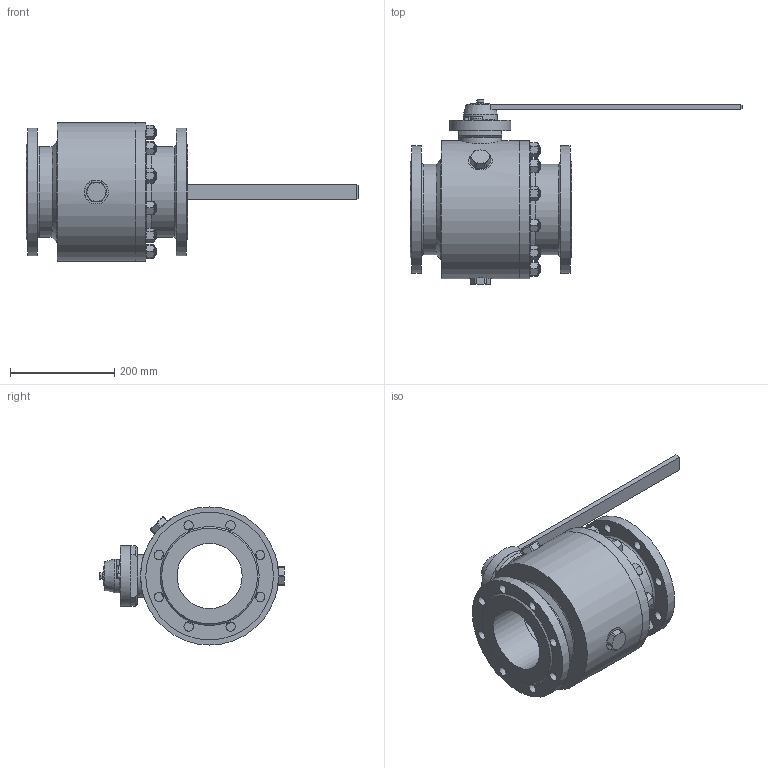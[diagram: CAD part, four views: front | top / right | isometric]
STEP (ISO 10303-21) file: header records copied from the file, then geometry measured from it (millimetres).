
FILE_DESCRIPTION(('STEP AP203'), '1');
FILE_NAME('ZARDP 125.016.21.P.stp', '2013-12-06T13:06:58', ('1'), ('1'), 'ASCON STEP Converter 1.3', 'Kompas 3D', '');
FILE_SCHEMA(('CONFIG_CONTROL_DESIGN','SUPPORT_RESOURCE_SCHEMA'));
Length unit declared in the file: millimetre
Products named in the file (1): 43
Bounding box: 637 x 354.5 x 265 mm (x, y, z)
Volume: 7919799.5 mm3; surface area: 784534.6 mm2
Topology: 1 solids, 16 shells, 682 faces, 1501 edges, 937 vertices
Faces by surface type: plane 347, cylinder 174, cone 157, torus 4
Full cylindrical faces by diameter (mm): 8 x9, 8.376 x6, 8.5 x1, 10 x6, 11 x6, 13 x1, 13.835 x12, 16 x30, 17 x6, 18 x28, 25.376 x2, 27 x2, 31 x1, 34 x1, 36 x1, 38 x1, 38.2 x1, 48 x1, 48.5 x1, 60 x1, 65 x1, 82 x1, 117 x1, 125 x2, 174 x2, 212 x1, 245 x2, 265 x2
Entity records: 27444 total; most frequent: CARTESIAN_POINT 12366, DIRECTION 3172, ORIENTED_EDGE 2966, EDGE_CURVE 1483, AXIS2_PLACEMENT_3D 1267, VERTEX_POINT 937, EDGE_LOOP 840, ADVANCED_FACE 682
